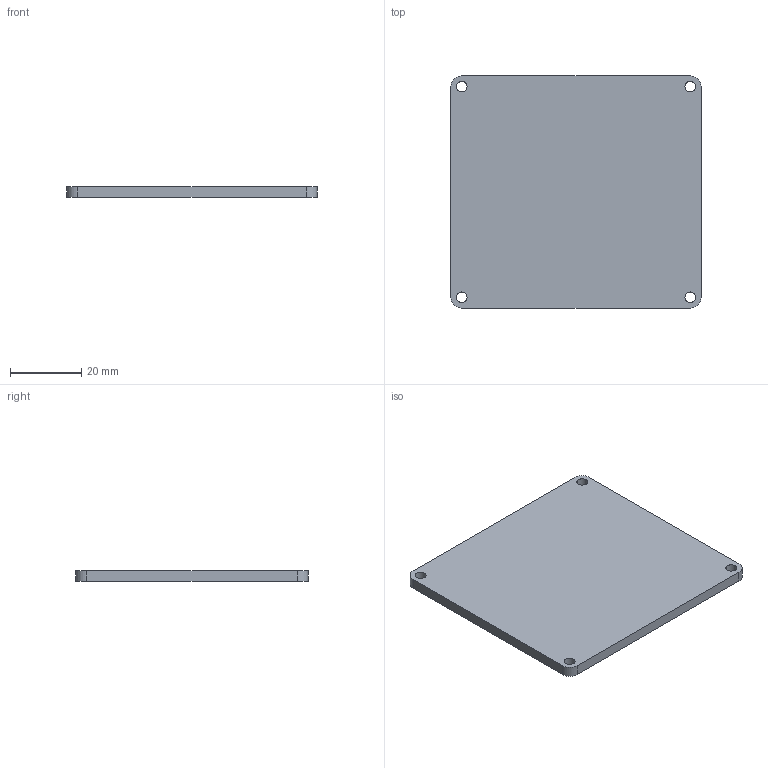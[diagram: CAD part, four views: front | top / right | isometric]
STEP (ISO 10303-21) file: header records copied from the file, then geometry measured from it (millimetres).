
FILE_DESCRIPTION(('HOOPS Exchange Step'),'2;1');
FILE_NAME('/private/var/mobile/Containers/Data/Application/D3E076ED-DCB3-4951-9F90-31514E928BEC/tmp/export/temp_export','2025-07-16T18:07:48-04:00',('mobile'),('Shapr3D Limited'),'HOOPS Exchange 2024.8','Shapr3D','Authorized');
FILE_SCHEMA( ('AP242_MANAGED_MODEL_BASED_3D_ENGINEERING_MIM_LF {1 0 10303 442 1 1 4}') );
Length unit declared in the file: millimetre
Products named in the file (1): top pannel
Bounding box: 70 x 65 x 3 mm (x, y, z)
Volume: 13542 mm3; surface area: 9935.6 mm2
Topology: 1 solids, 1 shells, 14 faces, 44 edges, 32 vertices
Faces by surface type: cylinder 8, plane 6
Full cylindrical faces by diameter (mm): 3 x4
Entity records: 568 total; most frequent: DIRECTION 100, CARTESIAN_POINT 92, ORIENTED_EDGE 88, EDGE_CURVE 44, AXIS2_PLACEMENT_3D 40, VERTEX_POINT 32, CIRCLE 24, EDGE_LOOP 22
